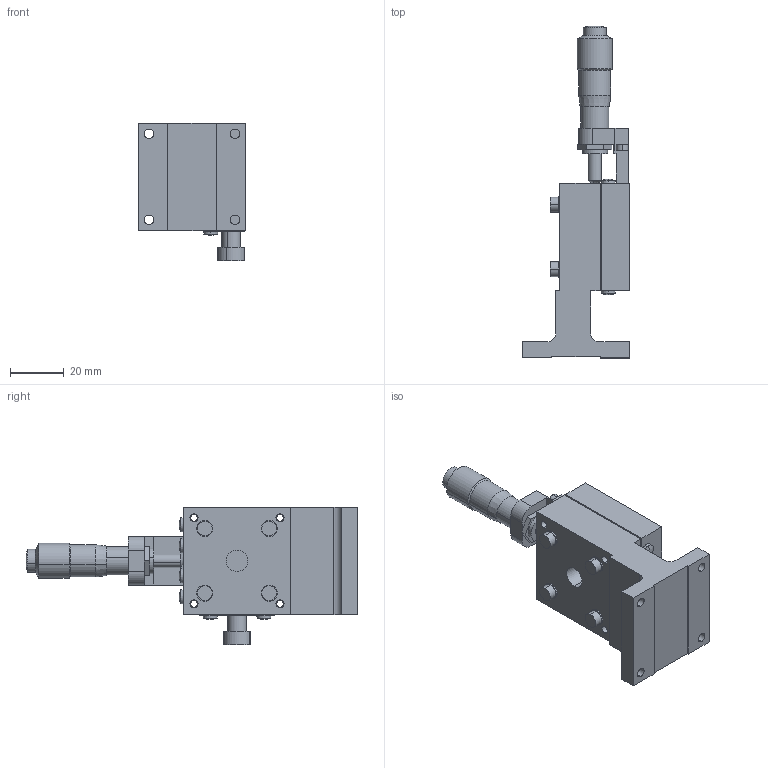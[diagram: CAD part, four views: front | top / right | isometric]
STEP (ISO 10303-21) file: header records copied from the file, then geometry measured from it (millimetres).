
FILE_DESCRIPTION (( 'STEP AP214' ), '1' );
FILE_NAME ('LZ‐4041‐CR1.STEP', '2007-08-30T09:57:32', ( '' ), ( '' ), 'SwSTEP 2.0', 'SolidWorks 2006303', '' );
FILE_SCHEMA (( 'AUTOMOTIVE_DESIGN' ));
Length unit declared in the file: millimetre
Products named in the file (3): LZ40B100－1_ﾃﾞﾌｫﾙﾄ; LZ‐4041‐CR1; LZ40B100－2_ﾃﾞﾌｫﾙﾄ
Assembly tree (2 placements, depth 2):
  LZ‐4041‐CR1
    LZ40B100－1_ﾃﾞﾌｫﾙﾄ
    LZ40B100－2_ﾃﾞﾌｫﾙﾄ
Bounding box: 40 x 123.5 x 51.3 mm (x, y, z)
Volume: 64696 mm3; surface area: 26980.9 mm2
Topology: 3 solids, 9 shells, 332 faces, 779 edges, 500 vertices
Faces by surface type: cylinder 145, plane 137, cone 26, sphere 22, torus 2
Entity records: 9744 total; most frequent: DIRECTION 1835, CARTESIAN_POINT 1614, ORIENTED_EDGE 1554, EDGE_CURVE 777, AXIS2_PLACEMENT_3D 721, VERTEX_POINT 500, EDGE_LOOP 413, VECTOR 393
